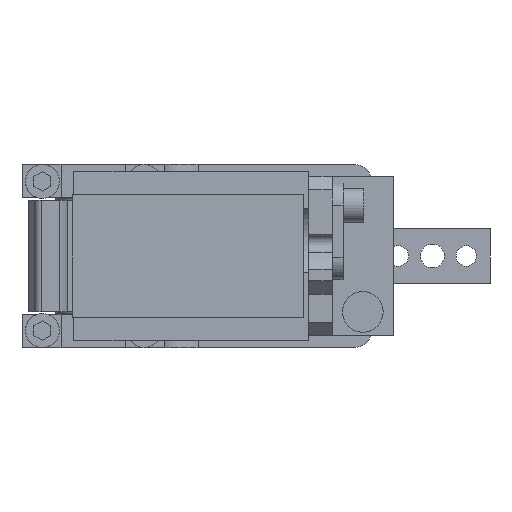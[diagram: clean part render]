
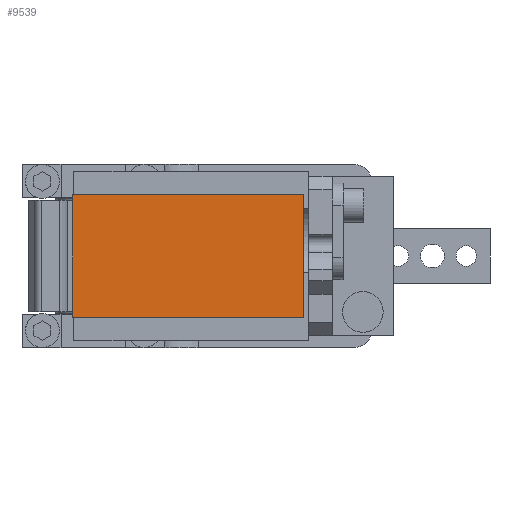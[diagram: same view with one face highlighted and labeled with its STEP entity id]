
A CAD part, front view. The second image highlights one B-rep face of the part: STEP entity #9539.
In plain terms, the highlighted planar face has unit normal (0, -1, 0).
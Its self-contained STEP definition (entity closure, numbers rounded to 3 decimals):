
#47 = LINE ( 'NONE', #2419, #13648 ) ;
#262 = CARTESIAN_POINT ( 'NONE',  ( 62., -233., 18. ) ) ;
#812 = AXIS2_PLACEMENT_3D ( 'NONE', #2264, #12929, #13995 ) ;
#1189 = DIRECTION ( 'NONE',  ( 0., 0., -1. ) ) ;
#1332 = EDGE_CURVE ( 'NONE', #6176, #5661, #2625, .T. ) ;
#1658 = DIRECTION ( 'NONE',  ( 1., 0., 0. ) ) ;
#1986 = VECTOR ( 'NONE', #11649, 1000. ) ;
#2264 = CARTESIAN_POINT ( 'NONE',  ( 0., -233., 0. ) ) ;
#2419 = CARTESIAN_POINT ( 'NONE',  ( -6., -233., 18. ) ) ;
#2625 = LINE ( 'NONE', #8296, #8029 ) ;
#5661 = VERTEX_POINT ( 'NONE', #262 ) ;
#5730 = ORIENTED_EDGE ( 'NONE', *, *, #1332, .T. ) ;
#6176 = VERTEX_POINT ( 'NONE', #12806 ) ;
#6364 = EDGE_CURVE ( 'NONE', #10123, #14812, #47, .T. ) ;
#6766 = LINE ( 'NONE', #6847, #1986 ) ;
#6847 = CARTESIAN_POINT ( 'NONE',  ( -6., -233., 18. ) ) ;
#6935 = ORIENTED_EDGE ( 'NONE', *, *, #10268, .T. ) ;
#8029 = VECTOR ( 'NONE', #12905, 1000. ) ;
#8296 = CARTESIAN_POINT ( 'NONE',  ( 62., -233., 18. ) ) ;
#8659 = ORIENTED_EDGE ( 'NONE', *, *, #6364, .T. ) ;
#9163 = FACE_OUTER_BOUND ( 'NONE', #13787, .T. ) ;
#9539 = ADVANCED_FACE ( 'NONE', ( #9163 ), #14990, .T. ) ;
#9770 = ORIENTED_EDGE ( 'NONE', *, *, #11962, .T. ) ;
#9794 = LINE ( 'NONE', #13314, #11053 ) ;
#9988 = CARTESIAN_POINT ( 'NONE',  ( -6., -233., -18. ) ) ;
#10123 = VERTEX_POINT ( 'NONE', #12198 ) ;
#10268 = EDGE_CURVE ( 'NONE', #5661, #10123, #6766, .T. ) ;
#11053 = VECTOR ( 'NONE', #1658, 1000. ) ;
#11649 = DIRECTION ( 'NONE',  ( -1., 0., 0. ) ) ;
#11962 = EDGE_CURVE ( 'NONE', #14812, #6176, #9794, .T. ) ;
#12198 = CARTESIAN_POINT ( 'NONE',  ( -6., -233., 18. ) ) ;
#12806 = CARTESIAN_POINT ( 'NONE',  ( 62., -233., -18. ) ) ;
#12905 = DIRECTION ( 'NONE',  ( 0., 0., 1. ) ) ;
#12929 = DIRECTION ( 'NONE',  ( 0., -1., 0. ) ) ;
#13314 = CARTESIAN_POINT ( 'NONE',  ( -6., -233., -18. ) ) ;
#13648 = VECTOR ( 'NONE', #1189, 1000. ) ;
#13787 = EDGE_LOOP ( 'NONE', ( #8659, #9770, #5730, #6935 ) ) ;
#13995 = DIRECTION ( 'NONE',  ( 0., 0., -1. ) ) ;
#14812 = VERTEX_POINT ( 'NONE', #9988 ) ;
#14990 = PLANE ( 'NONE',  #812 ) ;
